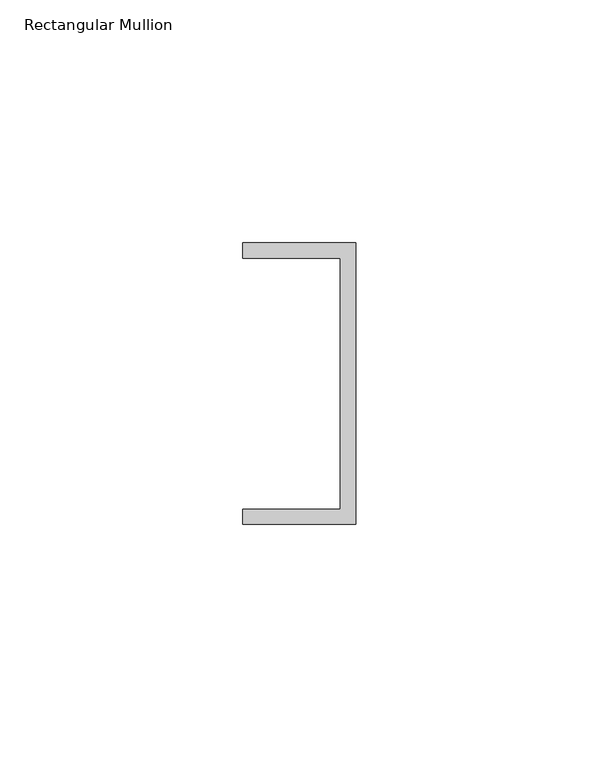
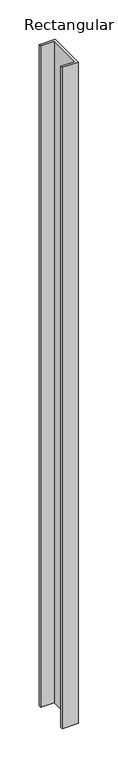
"""IFC4 building model written with IfcOpenShell, lengths in millimetres: member geometry, Rectangular Mullion : Frame-Teknion-Altos-Ceiling_Channel."""

from ifc_helpers import new_model, si_unit, frame, origin, place, context, project, spatial, polyline, outline, extrude, source, transform, mapped, element, save


def rectangular_mullion_eacba65d(model_context):
    return source(origin(), model_context, "Body", "SweptSolid", [
        extrude(outline(polyline([(0.0, 29.0214844), (0.0, -29.0214844), (-23.3164063, -29.0214844), (-23.3164063, -25.8464844), (-3.175, -25.8464844), (-3.175, 25.8464844), (-23.3164063, 25.8464844), (-23.3164063, 29.0214844), (0.0, 29.0214844)])), frame((0.0, 0.0, -1024.8304687), z_axis=(0.0, 0.0, 1.0), x_axis=(1.0, 0.0, 0.0)), (0.0, 0.0, 1.0), 1024.8304688),
    ])


if __name__ == "__main__":
    model = new_model("IFC4")
    model_context = context("Model", 3, world=origin())
    ifc_project = project(units=[si_unit("LENGTHUNIT", "METRE", prefix="MILLI")], contexts=[model_context])
    site = spatial("IfcSite", under=ifc_project)
    building = spatial("IfcBuilding", under=site)
    placement = place(None, origin())
    rectangular_mullion_shape = rectangular_mullion_eacba65d(model_context)
    element("IfcMember", 1, ObjectType="Rectangular Mullion : Frame-Teknion-Altos-Ceiling_Channel", at=placement, inside=building, context=model_context, shape_type="MappedRepresentation", body=[
        mapped(rectangular_mullion_shape, transform((0.0, 0.0, 0.0), x_axis=(1.0, 0.0, 0.0), y_axis=(0.0, 1.0, 0.0), z_axis=(0.0, 0.0, 1.0))),
    ])
    save(model, "model.ifc")
